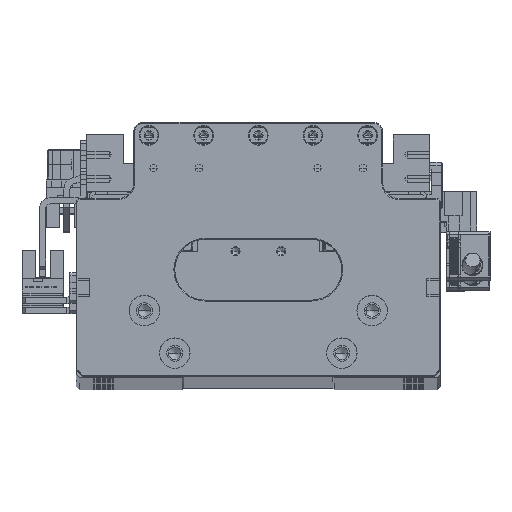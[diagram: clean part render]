
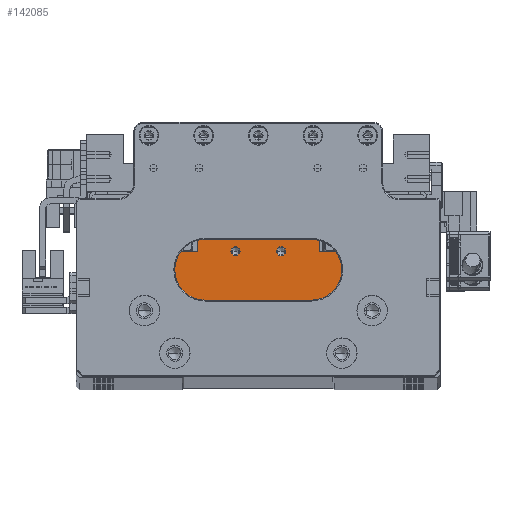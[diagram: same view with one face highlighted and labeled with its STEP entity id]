
A CAD part, top view. The second image highlights one B-rep face of the part: STEP entity #142085.
In plain terms, the highlighted planar face has unit normal (0, 0, 1).
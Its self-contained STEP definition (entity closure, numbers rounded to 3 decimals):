
#684 = DIRECTION ( 'NONE',  ( 1., 0., 0. ) ) ;
#933 = DIRECTION ( 'NONE',  ( 0., 1., 0. ) ) ;
#2081 = PLANE ( 'NONE',  #50870 ) ;
#2660 = CIRCLE ( 'NONE', #105748, 1.525 ) ;
#2770 = VECTOR ( 'NONE', #96423, 1000. ) ;
#2846 = VERTEX_POINT ( 'NONE', #64623 ) ;
#4243 = VERTEX_POINT ( 'NONE', #46468 ) ;
#4442 = VECTOR ( 'NONE', #102271, 1000. ) ;
#5039 = EDGE_CURVE ( 'NONE', #6311, #111387, #62550, .T. ) ;
#5378 = EDGE_CURVE ( 'NONE', #106474, #6311, #124011, .T. ) ;
#6311 = VERTEX_POINT ( 'NONE', #75920 ) ;
#6726 = EDGE_CURVE ( 'NONE', #67196, #85670, #109615, .T. ) ;
#7074 = ORIENTED_EDGE ( 'NONE', *, *, #6726, .F. ) ;
#9649 = CARTESIAN_POINT ( 'NONE',  ( -31.594, -12.996, 411.036 ) ) ;
#12169 = EDGE_LOOP ( 'NONE', ( #32006, #31961, #110104, #88588, #130969, #50497, #44070, #57736 ) ) ;
#12323 = CARTESIAN_POINT ( 'NONE',  ( -31.594, -1.296, 411.036 ) ) ;
#13119 = VECTOR ( 'NONE', #75628, 1000. ) ;
#13288 = VERTEX_POINT ( 'NONE', #64868 ) ;
#13943 = CARTESIAN_POINT ( 'NONE',  ( 5.806, 6.304, 411.036 ) ) ;
#15827 = CARTESIAN_POINT ( 'NONE',  ( -9.194, 6.304, 411.036 ) ) ;
#21202 = VECTOR ( 'NONE', #99471, 1000. ) ;
#21882 = ORIENTED_EDGE ( 'NONE', *, *, #79052, .F. ) ;
#25211 = DIRECTION ( 'NONE',  ( 1., 0., 0. ) ) ;
#27116 = DIRECTION ( 'NONE',  ( 1., 0., 0. ) ) ;
#28259 = LINE ( 'NONE', #132945, #21202 ) ;
#28851 = LINE ( 'NONE', #124320, #145095 ) ;
#31135 = DIRECTION ( 'NONE',  ( 0., 0., 1. ) ) ;
#31471 = VERTEX_POINT ( 'NONE', #97779 ) ;
#31961 = ORIENTED_EDGE ( 'NONE', *, *, #5378, .F. ) ;
#32006 = ORIENTED_EDGE ( 'NONE', *, *, #5039, .F. ) ;
#33606 = FACE_OUTER_BOUND ( 'NONE', #12169, .T. ) ;
#35354 = EDGE_CURVE ( 'NONE', #106712, #13288, #61047, .T. ) ;
#37272 = EDGE_CURVE ( 'NONE', #111387, #2846, #28851, .T. ) ;
#38716 = EDGE_CURVE ( 'NONE', #106474, #137199, #109393, .T. ) ;
#42548 = EDGE_CURVE ( 'NONE', #4243, #31471, #106362, .T. ) ;
#44070 = ORIENTED_EDGE ( 'NONE', *, *, #59040, .F. ) ;
#45435 = CARTESIAN_POINT ( 'NONE',  ( -10.719, 6.304, 411.036 ) ) ;
#45599 = EDGE_CURVE ( 'NONE', #85670, #67196, #107343, .T. ) ;
#46468 = CARTESIAN_POINT ( 'NONE',  ( 4.281, 6.304, 411.036 ) ) ;
#48493 = ORIENTED_EDGE ( 'NONE', *, *, #42548, .F. ) ;
#50497 = ORIENTED_EDGE ( 'NONE', *, *, #35354, .F. ) ;
#50870 = AXIS2_PLACEMENT_3D ( 'NONE', #58131, #102859, #80722 ) ;
#54677 = AXIS2_PLACEMENT_3D ( 'NONE', #133143, #65803, #144501 ) ;
#57736 = ORIENTED_EDGE ( 'NONE', *, *, #37272, .F. ) ;
#58131 = CARTESIAN_POINT ( 'NONE',  ( -9.194, -1.296, 411.036 ) ) ;
#59040 = EDGE_CURVE ( 'NONE', #2846, #106712, #72885, .T. ) ;
#61047 = LINE ( 'NONE', #63435, #113795 ) ;
#62550 = LINE ( 'NONE', #63031, #2770 ) ;
#63031 = CARTESIAN_POINT ( 'NONE',  ( -9.194, 6.204, 411.036 ) ) ;
#63435 = CARTESIAN_POINT ( 'NONE',  ( 18.306, -1.296, 411.036 ) ) ;
#64623 = CARTESIAN_POINT ( 'NONE',  ( -21.694, 10.204, 411.036 ) ) ;
#64868 = CARTESIAN_POINT ( 'NONE',  ( 18.306, 6.204, 411.036 ) ) ;
#65803 = DIRECTION ( 'NONE',  ( 0., 0., 1. ) ) ;
#67196 = VERTEX_POINT ( 'NONE', #95018 ) ;
#68458 = EDGE_LOOP ( 'NONE', ( #7074, #120904 ) ) ;
#72885 = LINE ( 'NONE', #120325, #13119 ) ;
#73137 = CARTESIAN_POINT ( 'NONE',  ( -9.194, 6.204, 411.036 ) ) ;
#75628 = DIRECTION ( 'NONE',  ( 1., 0., 0. ) ) ;
#75920 = CARTESIAN_POINT ( 'NONE',  ( -31.594, 6.204, 411.036 ) ) ;
#79052 = EDGE_CURVE ( 'NONE', #31471, #4243, #2660, .T. ) ;
#79516 = VECTOR ( 'NONE', #684, 1000. ) ;
#80352 = CARTESIAN_POINT ( 'NONE',  ( 18.306, 10.204, 411.036 ) ) ;
#80722 = DIRECTION ( 'NONE',  ( -1., 0., 0. ) ) ;
#83127 = LINE ( 'NONE', #73137, #143015 ) ;
#85670 = VERTEX_POINT ( 'NONE', #45435 ) ;
#88588 = ORIENTED_EDGE ( 'NONE', *, *, #118089, .F. ) ;
#89900 = FACE_BOUND ( 'NONE', #95830, .T. ) ;
#92579 = DIRECTION ( 'NONE',  ( 0., 0., 1. ) ) ;
#93441 = FACE_BOUND ( 'NONE', #68458, .T. ) ;
#94457 = DIRECTION ( 'NONE',  ( 0., 0., 1. ) ) ;
#95018 = CARTESIAN_POINT ( 'NONE',  ( -7.669, 6.304, 411.036 ) ) ;
#95830 = EDGE_LOOP ( 'NONE', ( #21882, #48493 ) ) ;
#96423 = DIRECTION ( 'NONE',  ( 1., 0., 0. ) ) ;
#96820 = DIRECTION ( 'NONE',  ( 0., -1., 0. ) ) ;
#97744 = AXIS2_PLACEMENT_3D ( 'NONE', #98479, #31135, #109758 ) ;
#97779 = CARTESIAN_POINT ( 'NONE',  ( 7.331, 6.304, 411.036 ) ) ;
#98479 = CARTESIAN_POINT ( 'NONE',  ( 5.806, 6.304, 411.036 ) ) ;
#99471 = DIRECTION ( 'NONE',  ( 0., -1., 0. ) ) ;
#102271 = DIRECTION ( 'NONE',  ( 0., 1., 0. ) ) ;
#102642 = CARTESIAN_POINT ( 'NONE',  ( -21.694, 6.204, 411.036 ) ) ;
#102859 = DIRECTION ( 'NONE',  ( 0., 0., -1. ) ) ;
#105748 = AXIS2_PLACEMENT_3D ( 'NONE', #13943, #92579, #25211 ) ;
#106362 = CIRCLE ( 'NONE', #97744, 1.525 ) ;
#106474 = VERTEX_POINT ( 'NONE', #9649 ) ;
#106712 = VERTEX_POINT ( 'NONE', #80352 ) ;
#107343 = CIRCLE ( 'NONE', #54677, 1.525 ) ;
#109393 = LINE ( 'NONE', #124065, #79516 ) ;
#109615 = CIRCLE ( 'NONE', #128682, 1.525 ) ;
#109758 = DIRECTION ( 'NONE',  ( 1., 0., 0. ) ) ;
#110104 = ORIENTED_EDGE ( 'NONE', *, *, #38716, .T. ) ;
#111387 = VERTEX_POINT ( 'NONE', #102642 ) ;
#113795 = VECTOR ( 'NONE', #96820, 1000. ) ;
#117011 = CARTESIAN_POINT ( 'NONE',  ( 28.206, -12.996, 411.036 ) ) ;
#118089 = EDGE_CURVE ( 'NONE', #138441, #137199, #28259, .T. ) ;
#120325 = CARTESIAN_POINT ( 'NONE',  ( -9.194, 10.204, 411.036 ) ) ;
#120904 = ORIENTED_EDGE ( 'NONE', *, *, #45599, .F. ) ;
#124011 = LINE ( 'NONE', #12323, #4442 ) ;
#124065 = CARTESIAN_POINT ( 'NONE',  ( -9.194, -12.996, 411.036 ) ) ;
#124320 = CARTESIAN_POINT ( 'NONE',  ( -21.694, -1.296, 411.036 ) ) ;
#128682 = AXIS2_PLACEMENT_3D ( 'NONE', #15827, #94457, #27116 ) ;
#129149 = DIRECTION ( 'NONE',  ( 1., 0., 0. ) ) ;
#130969 = ORIENTED_EDGE ( 'NONE', *, *, #141055, .F. ) ;
#132945 = CARTESIAN_POINT ( 'NONE',  ( 28.206, -1.296, 411.036 ) ) ;
#133143 = CARTESIAN_POINT ( 'NONE',  ( -9.194, 6.304, 411.036 ) ) ;
#137199 = VERTEX_POINT ( 'NONE', #117011 ) ;
#138441 = VERTEX_POINT ( 'NONE', #144815 ) ;
#141055 = EDGE_CURVE ( 'NONE', #13288, #138441, #83127, .T. ) ;
#142085 = ADVANCED_FACE ( 'NONE', ( #33606, #89900, #93441 ), #2081, .F. ) ;
#143015 = VECTOR ( 'NONE', #129149, 1000. ) ;
#144501 = DIRECTION ( 'NONE',  ( 1., 0., 0. ) ) ;
#144815 = CARTESIAN_POINT ( 'NONE',  ( 28.206, 6.204, 411.036 ) ) ;
#145095 = VECTOR ( 'NONE', #933, 1000. ) ;
